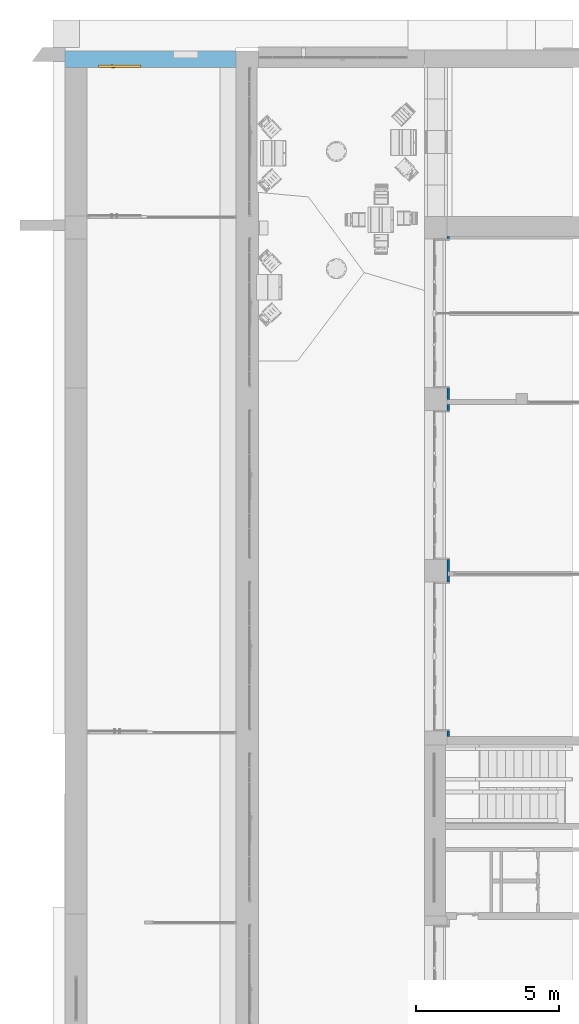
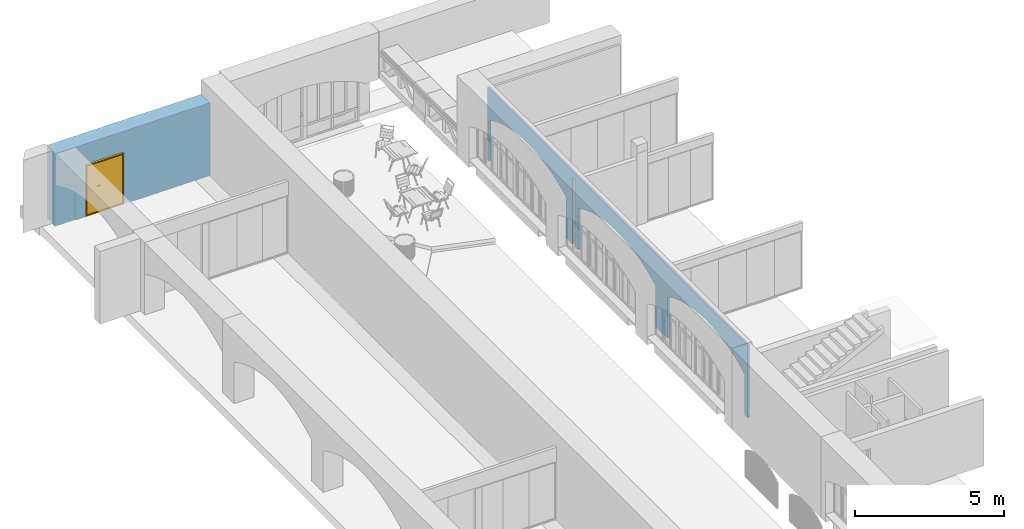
# One storey, part 80 of 88: 1 door, 1 wall, 5 openings, plus 1 element that does not belong to this part.
"""IFC2X3 building model written with IfcOpenShell, lengths in millimetres."""

from ifc_helpers import new_model, entity, si_unit, converted_unit, derived_unit, direction, frame, frame_2d, origin, place, context, subcontext, project, spatial, rectangle, extrude, faceted_brep, source, transform, mapped, material, layer, layer_set, layer_usage, type_object, type_shapes, element, fill, save


model = new_model("IFC2X3")

# Units and contexts
model_context = context("Model", 3, precision=0.01, world=origin(), true_north=direction((6.123031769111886e-17, 1.0)))
body_context = subcontext(model_context, "Body", "Model", "MODEL_VIEW")
ifc_project = project(units=[si_unit("LENGTHUNIT", "METRE", prefix="MILLI"), si_unit("AREAUNIT", "SQUARE_METRE"), si_unit("VOLUMEUNIT", "CUBIC_METRE"), converted_unit("PLANEANGLEUNIT", "DEGREE", entity("IfcPlaneAngleMeasure", 0.017453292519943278), si_unit("PLANEANGLEUNIT", "RADIAN"), dimensions=[0, 0, 0, 0, 0, 0, 0]), si_unit("MASSUNIT", "GRAM", prefix="KILO"), derived_unit("MASSDENSITYUNIT", [(si_unit("MASSUNIT", "GRAM", prefix="KILO"), 1), (si_unit("LENGTHUNIT", "METRE"), -3)]), derived_unit("IONCONCENTRATIONUNIT", [(si_unit("MASSUNIT", "GRAM", prefix="KILO"), 1), (si_unit("LENGTHUNIT", "METRE"), -3)]), derived_unit("MOMENTOFINERTIAUNIT", [(si_unit("LENGTHUNIT", "METRE"), 4)]), si_unit("TIMEUNIT", "SECOND"), si_unit("FREQUENCYUNIT", "HERTZ"), si_unit("THERMODYNAMICTEMPERATUREUNIT", "DEGREE_CELSIUS"), derived_unit("THERMALTRANSMITTANCEUNIT", [(si_unit("MASSUNIT", "GRAM", prefix="KILO"), 1), (si_unit("THERMODYNAMICTEMPERATUREUNIT", "KELVIN"), -1), (si_unit("TIMEUNIT", "SECOND"), -3)]), derived_unit("THERMALCONDUCTANCEUNIT", [(si_unit("MASSUNIT", "GRAM", prefix="KILO"), 1), (si_unit("THERMODYNAMICTEMPERATUREUNIT", "KELVIN"), -1), (si_unit("TIMEUNIT", "SECOND"), -3), (si_unit("LENGTHUNIT", "METRE"), 1)]), derived_unit("VOLUMETRICFLOWRATEUNIT", [(si_unit("LENGTHUNIT", "METRE", prefix="DECI"), 3), (si_unit("TIMEUNIT", "SECOND"), -1)]), derived_unit("MASSFLOWRATEUNIT", [(si_unit("MASSUNIT", "GRAM", prefix="KILO"), 1), (si_unit("TIMEUNIT", "SECOND"), -1)]), derived_unit("ROTATIONALFREQUENCYUNIT", [(si_unit("TIMEUNIT", "SECOND"), -1)]), si_unit("ELECTRICCURRENTUNIT", "AMPERE"), si_unit("ELECTRICVOLTAGEUNIT", "VOLT"), si_unit("POWERUNIT", "WATT"), si_unit("FORCEUNIT", "NEWTON", prefix="KILO"), si_unit("ILLUMINANCEUNIT", "LUX"), si_unit("LUMINOUSFLUXUNIT", "LUMEN"), si_unit("LUMINOUSINTENSITYUNIT", "CANDELA"), si_unit("ENERGYUNIT", "JOULE"), derived_unit("USERDEFINED", [(si_unit("MASSUNIT", "GRAM", prefix="KILO"), -1), (si_unit("LENGTHUNIT", "METRE"), -2), (si_unit("TIMEUNIT", "SECOND"), 3), (si_unit("LUMINOUSFLUXUNIT", "LUMEN"), 1)]), derived_unit("USERDEFINED", [(si_unit("MASSUNIT", "GRAM", prefix="KILO"), 1), (si_unit("TIMEUNIT", "SECOND"), -3), (si_unit("LENGTHUNIT", "METRE"), 3), (si_unit("ELECTRICCURRENTUNIT", "AMPERE"), -2)]), derived_unit("SOUNDPOWERUNIT", [(si_unit("MASSUNIT", "GRAM", prefix="KILO"), 1), (si_unit("TIMEUNIT", "SECOND"), -3), (si_unit("LENGTHUNIT", "METRE"), 2)]), derived_unit("SOUNDPRESSUREUNIT", [(si_unit("MASSUNIT", "GRAM", prefix="KILO"), 1), (si_unit("LENGTHUNIT", "METRE"), -1), (si_unit("TIMEUNIT", "SECOND"), -2)]), derived_unit("LINEARVELOCITYUNIT", [(si_unit("LENGTHUNIT", "METRE"), 1), (si_unit("TIMEUNIT", "SECOND"), -1)]), si_unit("PRESSUREUNIT", "PASCAL"), derived_unit("USERDEFINED", [(si_unit("MASSUNIT", "GRAM", prefix="KILO"), 1), (si_unit("LENGTHUNIT", "METRE"), -2), (si_unit("TIMEUNIT", "SECOND"), -2)]), derived_unit("LINEARFORCEUNIT", [(si_unit("MASSUNIT", "GRAM", prefix="KILO"), 1), (si_unit("TIMEUNIT", "SECOND"), -2)]), derived_unit("PLANARFORCEUNIT", [(si_unit("MASSUNIT", "GRAM", prefix="KILO"), 1), (si_unit("LENGTHUNIT", "METRE"), -1), (si_unit("TIMEUNIT", "SECOND"), -2)]), derived_unit("SPECIFICHEATCAPACITYUNIT", [(si_unit("THERMODYNAMICTEMPERATUREUNIT", "KELVIN"), -1), (si_unit("LENGTHUNIT", "METRE"), 2), (si_unit("TIMEUNIT", "SECOND"), -2)]), derived_unit("HEATFLUXDENSITYUNIT", [(si_unit("MASSUNIT", "GRAM", prefix="KILO"), 1), (si_unit("TIMEUNIT", "SECOND"), -3)]), derived_unit("HEATINGVALUEUNIT", [(si_unit("LENGTHUNIT", "METRE"), 2), (si_unit("TIMEUNIT", "SECOND"), -2)]), derived_unit("VAPORPERMEABILITYUNIT", [(si_unit("LENGTHUNIT", "METRE"), -1), (si_unit("TIMEUNIT", "SECOND"), 1)]), derived_unit("DYNAMICVISCOSITYUNIT", [(si_unit("MASSUNIT", "GRAM", prefix="KILO"), 1), (si_unit("TIMEUNIT", "SECOND"), -1), (si_unit("LENGTHUNIT", "METRE"), -1)]), derived_unit("THERMALEXPANSIONCOEFFICIENTUNIT", [(si_unit("THERMODYNAMICTEMPERATUREUNIT", "KELVIN"), -1)]), derived_unit("MODULUSOFELASTICITYUNIT", [(si_unit("MASSUNIT", "GRAM", prefix="KILO"), 1), (si_unit("LENGTHUNIT", "METRE"), -1), (si_unit("TIMEUNIT", "SECOND"), -2)]), derived_unit("ISOTHERMALMOISTURECAPACITYUNIT", [(si_unit("MASSUNIT", "GRAM", prefix="KILO"), -1), (si_unit("LENGTHUNIT", "METRE"), 3)]), derived_unit("MOISTUREDIFFUSIVITYUNIT", [(si_unit("TIMEUNIT", "SECOND"), -1), (si_unit("LENGTHUNIT", "METRE"), 2)]), derived_unit("MASSPERLENGTHUNIT", [(si_unit("MASSUNIT", "GRAM", prefix="KILO"), 1), (si_unit("LENGTHUNIT", "METRE"), -1)]), derived_unit("THERMALRESISTANCEUNIT", [(si_unit("MASSUNIT", "GRAM", prefix="KILO"), -1), (si_unit("TIMEUNIT", "SECOND"), 3), (si_unit("THERMODYNAMICTEMPERATUREUNIT", "KELVIN"), 1)]), derived_unit("ACCELERATIONUNIT", [(si_unit("LENGTHUNIT", "METRE"), 1), (si_unit("TIMEUNIT", "SECOND"), -2)]), derived_unit("ANGULARVELOCITYUNIT", [(si_unit("TIMEUNIT", "SECOND"), -1), (si_unit("PLANEANGLEUNIT", "RADIAN"), 1)]), derived_unit("LINEARSTIFFNESSUNIT", [(si_unit("MASSUNIT", "GRAM", prefix="KILO"), 1), (si_unit("TIMEUNIT", "SECOND"), -2)]), derived_unit("WARPINGCONSTANTUNIT", [(si_unit("LENGTHUNIT", "METRE"), 6)]), derived_unit("LINEARMOMENTUNIT", [(si_unit("MASSUNIT", "GRAM", prefix="KILO"), 1), (si_unit("LENGTHUNIT", "METRE"), 1), (si_unit("TIMEUNIT", "SECOND"), -2)]), derived_unit("TORQUEUNIT", [(si_unit("MASSUNIT", "GRAM", prefix="KILO"), 1), (si_unit("LENGTHUNIT", "METRE"), 2), (si_unit("TIMEUNIT", "SECOND"), -2)])], contexts=[model_context])

# Site, building, storey
site_placement = place(None, origin())
site = spatial("IfcSite", under=ifc_project, at=site_placement, Name="Default", CompositionType="ELEMENT")
building_placement = place(site_placement, origin())
building = spatial("IfcBuilding", under=site, at=building_placement, Name="Eesti Rahvusraamatukogu hoone renoveerimise projekteerimistööd", CompositionType="ELEMENT")
storey_placement = place(building_placement, origin())
storey = spatial("IfcBuildingStorey", under=building, at=storey_placement, Name="1. korrus", CompositionType="ELEMENT", Elevation=0.0)

# Wall, openings, door
ifc_material_1 = material(Name="ol. olev materjal")
ifc_layer_1 = layer(ifc_material_1, 580.0)
ifc_layer_set_1 = layer_set([ifc_layer_1], Name="Basic Wall:ol. olev - 580mm")
ifc_layer_usage = layer_usage(ifc_layer_set_1, "AXIS2", "POSITIVE", -290.0)
wall_type_1 = type_object("IfcWallType", Name="Basic Wall:ol. olev - 580mm", PredefinedType="STANDARD", material=ifc_layer_set_1)
wall_1_placement = place(storey_placement, frame((-49360.0, 54280.37627987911, 0.0)))
wall_1 = element("IfcWallStandardCase", 1, at=wall_1_placement, inside=storey, type_object=wall_type_1, material=ifc_layer_usage, Name="Basic Wall:ol. olev - 580mm", ObjectType="Basic Wall:ol. olev - 580mm", context=body_context, shape_type="SweptSolid", body=[
    extrude(rectangle(XDim=5989.999999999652, YDim=580.0000000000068, at=frame_2d((2994.999999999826, 1.3073986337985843e-12), x_axis=(-1.0, 0.0))), origin(), (0.0, 0.0, 1.0), 2980.0000000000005),
])
opening_1_placement = place(wall_1_placement, frame((49360.0, -54280.37627987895, 0.0)))
element("IfcOpeningElement", 2, at=opening_1_placement, cuts=wall_1, Name="Basic Wall:ol. olev - 580mm", ObjectType="Recess", context=body_context, shape_type="Brep", body=[
    faceted_brep([(-48580.0, 54019.93457046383, 0.0), (-48580.0, 54019.934570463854, 1660.0), (-48580.0, 53577.077702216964, 1885.1089561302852), (-48580.0, 53115.60305225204, 2069.0583929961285), (-48580.0, 52756.23368608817, 2166.8178757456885), (-48580.0, 52396.8643199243, 2264.577358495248), (-48580.0, 51905.79853510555, 2339.748116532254), (-48580.0, 51409.93457046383, 2370.0), (-48580.0, 50914.070605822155, 2339.748116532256), (-48580.0, 50423.0048210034, 2264.5773584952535), (-48580.0, 50063.63545483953, 2166.8178757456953), (-48580.0, 49704.266088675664, 2069.0583929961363), (-48580.0, 49242.79143871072, 1885.108956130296), (-48580.0, 48799.93457046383, 1660.0), (-48580.0, 48799.93457046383, 0.0), (-49360.0, 48799.93457046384, 0.0), (-49360.0, 48799.93457046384, 1660.0), (-49360.0, 49242.79143871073, 1885.108956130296), (-49360.0, 49704.26608867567, 2069.0583929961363), (-49360.0, 50063.63545483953, 2166.817875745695), (-49360.0, 50423.00482100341, 2264.5773584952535), (-49360.0, 50914.07060582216, 2339.748116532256), (-49360.0, 51409.93457046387, 2370.0), (-49360.0, 51905.798535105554, 2339.748116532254), (-49360.0, 52396.86431992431, 2264.577358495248), (-49360.0, 52756.23368608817, 2166.817875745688), (-49360.0, 53115.603052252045, 2069.0583929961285), (-49360.0, 53577.07770221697, 1885.1089561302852), (-49360.0, 54019.93457046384, 1660.0), (-49360.0, 54019.93457046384, 0.0)], [[[0, 1, 2, 3, 4, 5, 6, 7, 8, 9, 10, 11, 12, 13, 14]], [[15, 16, 17, 18, 19, 20, 21, 22, 23, 24, 25, 26, 27, 28, 29]], [[1, 0, 29, 28]], [[2, 1, 28, 27]], [[3, 2, 27, 26]], [[5, 4, 3, 26, 25, 24]], [[6, 5, 24, 23]], [[7, 6, 23, 22]], [[8, 7, 22, 21]], [[9, 8, 21, 20]], [[11, 10, 9, 20, 19, 18]], [[12, 11, 18, 17]], [[13, 12, 17, 16]], [[14, 13, 16, 15]], [[0, 14, 15, 29]]]),
])
opening_2_placement = place(wall_1_placement, frame((49360.0, -54280.37627987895, 45.0)))
element("IfcOpeningElement", 3, at=opening_2_placement, cuts=wall_1, Name="Basic Wall:ol. olev - 580mm", ObjectType="Opening", context=body_context, shape_type="SweptSolid", body=[
    extrude(rectangle(XDim=2100.0, YDim=1499.9999999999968, at=frame_2d((-4.320099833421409e-12, 0.0), x_axis=(0.0, 1.0))), frame((-47440.0, 52466.37627987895, 1050.0), z_axis=(0.0, 1.0, 0.0), x_axis=(1.0, 0.0, 0.0)), (0.0, 0.0, 1.0), 3048.0),
])
opening_3_placement = place(wall_1_placement, frame((49360.0, -54280.37627987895, 45.0)))
element("IfcOpeningElement", 4, at=opening_3_placement, cuts=wall_1, Name="Basic Wall:ol. olev - 580mm", ObjectType="Opening", context=body_context, shape_type="SweptSolid", body=[
    extrude(rectangle(XDim=2099.999999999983, YDim=119.99999999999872, at=frame_2d((4.330757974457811e-12, 0.0), x_axis=(0.0, 1.0))), frame((-48910.0, 54817.43079275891, 1050.0), z_axis=(0.0, 1.0, 0.0), x_axis=(-1.0, 0.0, 0.0)), (0.0, 0.0, 1.0), 900.0000000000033),
])
opening_4_placement = place(wall_1_placement, frame((49360.0, -54280.37627987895, 990.0)))
element("IfcOpeningElement", 5, at=opening_4_placement, cuts=wall_1, Name="Basic Wall:ol. olev - 580mm", ObjectType="Recess", context=body_context, shape_type="SweptSolid", body=[
    extrude(rectangle(XDim=979.9999999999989, YDim=859.9999999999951, at=frame_2d((0.0, -1.4210854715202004e-13), x_axis=(0.0, 1.0))), frame((-45140.0, 54320.376279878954, 510.0), z_axis=(0.0, 1.0, 0.0), x_axis=(-1.0, 0.0, 0.0)), (0.0, 0.0, 1.0), 250.0000000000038),
])
opening_5_placement = place(wall_1_placement, frame((1170.0, -290.0, 0.0)))
opening_5 = element("IfcOpeningElement", 6, at=opening_5_placement, cuts=wall_1, Name="SMA_D02, 2-poolne:SU-00 - 1500x2100:1", ObjectType="Opening", context=body_context, shape_type="SweptSolid", body=[
    extrude(rectangle(XDim=2099.999999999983, YDim=1500.0, at=frame_2d((1049.9999999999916, 750.0), x_axis=(1.0, 0.0))), frame((0.0, 0.0, 0.0), z_axis=(0.0, 1.0, 0.0), x_axis=(0.0, 0.0, 1.0)), (0.0, 0.0, 1.0), 580.0),
])
ifc_material_2 = material(Name="EST. Metall. Plekk. Värvitud. RAL7023 (Concrete grey)")
door_style = type_object("IfcDoorStyle", Name="SMA_D02, 2-poolne:SU-00 - 1500x2100", ConstructionType="NOTDEFINED", OperationType="DOUBLE_DOOR_SINGLE_SWING", ParameterTakesPrecedence=False, Sizeable=False, material=ifc_material_2)
shared_shape = source(origin(), body_context, "Body", "Brep", [
    faceted_brep([(487.49999999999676, -10.0, 1100.0), (487.49999999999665, 28.0, 1100.0), (462.4999999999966, 28.0, 1100.0), (462.49999999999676, -15.0, 1100.0), (582.4999999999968, -15.0, 1100.0), (582.4999999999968, -10.0, 1100.0), (487.49999999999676, -10.0, 1075.0), (582.4999999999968, -10.0, 1075.0), (582.4999999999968, -15.0, 1075.0), (462.49999999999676, -15.0, 1075.0), (462.4999999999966, 28.0, 1075.0), (487.49999999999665, 28.0, 1075.0)], [[[0, 1, 2, 3, 4, 5]], [[6, 7, 8, 9, 10, 11]], [[1, 0, 6, 11]], [[2, 1, 11, 10]], [[3, 2, 10, 9]], [[4, 3, 9, 8]], [[5, 4, 8, 7]], [[0, 5, 7, 6]]]),
    faceted_brep([(500.0, 28.0, 1125.0), (500.0, 30.0, 1125.0), (450.0, 30.0, 1125.0), (450.0, 28.0, 1125.0), (500.0, 28.0, 1005.0), (450.0, 28.0, 1005.0), (450.0, 30.0, 1005.0), (500.0, 30.0, 1005.0)], [[[0, 1, 2, 3]], [[4, 5, 6, 7]], [[1, 0, 4, 7]], [[2, 1, 7, 6]], [[3, 2, 6, 5]], [[0, 3, 5, 4]]]),
    faceted_brep([(487.49999999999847, 120.0, 1100.0), (582.4999999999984, 120.0, 1100.0), (582.4999999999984, 125.0, 1100.0), (462.4999999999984, 125.0, 1100.0), (462.49999999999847, 82.0, 1100.0), (487.4999999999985, 82.0, 1100.0), (487.49999999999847, 120.0, 1075.0), (487.4999999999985, 82.0, 1075.0), (462.49999999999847, 82.0, 1075.0), (462.4999999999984, 125.0, 1075.0), (582.4999999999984, 125.0, 1075.0), (582.4999999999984, 120.0, 1075.0)], [[[0, 1, 2, 3, 4, 5]], [[6, 7, 8, 9, 10, 11]], [[5, 7, 6, 0]], [[4, 8, 7, 5]], [[3, 9, 8, 4]], [[2, 10, 9, 3]], [[1, 11, 10, 2]], [[0, 6, 11, 1]]]),
    faceted_brep([(500.0, 82.0, 1125.0), (450.0, 82.0, 1125.0), (450.0, 80.0, 1125.0), (500.0, 80.0, 1125.0), (500.0, 82.0, 1005.0), (500.0, 80.0, 1005.0), (450.0, 80.0, 1005.0), (450.0, 82.0, 1005.0)], [[[0, 1, 2, 3]], [[4, 5, 6, 7]], [[3, 5, 4, 0]], [[2, 6, 5, 3]], [[1, 7, 6, 2]], [[0, 4, 7, 1]]]),
    faceted_brep([(1450.0, -10.0, 30.0), (1450.0, -10.0, 0.0), (1450.0, 30.00000000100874, 0.0), (1450.0, 30.0, 20.0), (1450.0, 30.0, 30.0), (50.0, -10.0, 30.0), (50.0, 30.0, 30.0), (50.0, 30.000000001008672, 20.0), (50.0, 30.0, 0.0), (50.0, -10.0, 0.0), (35.0, 30.000000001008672, 0.0), (35.0, 80.0, 0.0), (1465.0, 80.0, 0.0), (1465.0, 30.00000000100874, 0.0), (1465.0, 80.0, 20.0), (1465.0, 30.00000000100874, 20.0), (35.0, 80.0, 20.0), (35.0, 30.000000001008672, 20.0)], [[[0, 1, 2, 3, 4]], [[5, 6, 7, 8, 9]], [[1, 0, 5, 9]], [[2, 1, 9, 8, 10, 11, 12, 13]], [[6, 4, 3, 7]], [[0, 4, 6, 5]], [[14, 15, 13, 12]], [[16, 11, 10, 17]], [[15, 14, 16, 17, 7, 3]], [[13, 15, 3, 2]], [[14, 12, 11, 16]], [[17, 10, 8, 7]]]),
    faceted_brep([(1490.0, -10.0, 0.0), (1450.0, -10.0, 0.0), (1450.0, 30.0, 0.0), (1465.0, 30.0, 0.0), (1465.0, 80.0, 0.0), (1490.0, 80.0, 0.0), (1490.0, -10.0, 2090.0), (10.0, -10.0, 2090.0), (10.0, -10.0, 0.0), (50.0, -10.0, 0.0), (50.0, -10.0, 2050.0), (1450.0, -10.0, 2050.0), (1450.0, 30.0, 2050.0), (50.0, 30.0, 2050.0), (50.0, 30.0, 0.0), (35.0, 30.0, 0.0), (35.0, 30.0, 2065.0), (1465.0, 30.0, 2065.0), (1465.0, 80.0, 2065.0), (35.0, 80.0, 2065.0), (35.0, 80.0, 0.0), (10.0, 80.0, 0.0), (10.0, 80.0, 2090.0), (1490.0, 80.0, 2090.0)], [[[0, 1, 2, 3, 4, 5]], [[1, 0, 6, 7, 8, 9, 10, 11]], [[2, 1, 11, 12]], [[3, 2, 12, 13, 14, 15, 16, 17]], [[4, 3, 17, 18]], [[5, 4, 18, 19, 20, 21, 22, 23]], [[0, 5, 23, 6]], [[8, 7, 22, 21]], [[9, 8, 21, 20, 15, 14]], [[10, 9, 14, 13]], [[16, 15, 20, 19]], [[11, 10, 13, 12]], [[17, 16, 19, 18]], [[7, 6, 23, 22]]]),
    faceted_brep([(35.0, 30.0, 20.0), (400.0, 30.0, 20.0), (400.0, 30.0, 2065.0), (35.0, 30.0, 2065.0), (35.0, 80.0, 20.0), (35.0, 80.0, 2065.0), (400.0, 80.0, 2065.0), (400.0, 80.0, 20.0)], [[[0, 1, 2, 3]], [[4, 5, 6, 7]], [[1, 0, 4, 7]], [[2, 1, 7, 6]], [[3, 2, 6, 5]], [[0, 3, 5, 4]]]),
    faceted_brep([(1465.0, 30.0, 2075.0), (400.0, 30.0, 2075.0), (400.0, 30.0, 20.0), (1465.0, 30.0, 20.0), (1465.0, 80.0, 2075.0), (1465.0, 80.0, 20.0), (400.0, 80.0, 20.0), (400.0, 80.0, 2075.0)], [[[0, 1, 2, 3]], [[4, 5, 6, 7]], [[1, 0, 4, 7]], [[2, 1, 7, 6]], [[3, 2, 6, 5]], [[0, 3, 5, 4]]]),
])
type_shapes(door_style, [shared_shape])
door_placement = place(opening_5_placement, origin())
door = element("IfcDoor", 7, at=door_placement, inside=storey, type_object=door_style, material=ifc_material_2, Name="SMA_D02, 2-poolne:SU-00 - 1500x2100", ObjectType="SMA_D02, 2-poolne:SU-00 - 1500x2100", OverallHeight=2099.999999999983, OverallWidth=1499.9999999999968, context=body_context, shape_type="MappedRepresentation", body=[
    mapped(shared_shape, transform((0.0, 0.0, 0.0), scale=1.0)),
])
fill(opening_5, door)

# Wall
ifc_material_3 = material(Name="EST. Soojustus.PIR_Powerwall Pro")
ifc_layer_2 = layer(ifc_material_3, 30.0)
ifc_material_4 = material(Name="EST. Metall. Alumiinium. Mütsprofiil.")
ifc_layer_3 = layer(ifc_material_4, 42.0)
ifc_material_5 = material(Name="EST. Ehitusplaat. Kipsplaat")
ifc_layer_4 = layer(ifc_material_5, 12.5)
ifc_layer_set_2 = layer_set([ifc_layer_2, ifc_layer_3, ifc_layer_4], Name="Basic Wall:VS-03.1 - soojustus")
wall_type_2 = type_object("IfcWallType", Name="Basic Wall:VS-03.1 - soojustus", PredefinedType="STANDARD", material=ifc_layer_set_2)
wall_2_placement = place(storey_placement, frame((-35957.75000000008, 48080.0, 1650.0), z_axis=(0.0, 0.0, 1.0), x_axis=(0.0, -1.0, 0.0)))
element("IfcWall", 8, at=wall_2_placement, inside=storey, type_object=wall_type_2, Name="Basic Wall:VS-03.1 - soojustus", ObjectType="Basic Wall:VS-03.1 - soojustus", context=body_context, shape_type="Brep", body=[
    faceted_brep([(6090.0, -42.2499999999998, 0.0), (5875.0, -42.250000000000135, 0.0), (5875.0, 42.249999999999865, 0.0), (6090.0, 42.2500000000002, 0.0), (90.0, -42.25000000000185, 0.0), (0.0, -42.25000000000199, 0.0), (0.0, 42.24999999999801, 0.0), (84.5, 42.24999999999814, 0.0), (90.0, 42.24999999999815, 0.0), (5705.0, -42.2500000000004, 0.0), (5290.0, -42.250000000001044, 0.0), (5290.0, 42.249999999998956, 0.0), (5705.0, 42.2499999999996, 0.0), (12090.0, -42.24999999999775, 0.0), (11290.0, -42.24999999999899, 0.0), (11290.0, 42.24999999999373, 0.0), (12090.0, 42.24999999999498, 0.0), (17485.0, -42.25000000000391, 0.0), (17290.0, -42.25000000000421, 0.0), (17290.0, 42.24999999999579, 0.0), (17485.0, 42.24999999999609, 0.0), (90.0, -42.25000000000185, 1669.5651236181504), (320.54177588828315, -42.25000000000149, 1785.1282652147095), (556.245189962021, -42.25000000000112, 1889.762154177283), (796.5924691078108, -42.25000000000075, 1983.236939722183), (1041.0556389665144, -42.25000000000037, 2065.3472844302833), (1289.0976837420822, -42.249999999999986, 2135.9128153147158), (1540.1737258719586, -42.25000000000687, 2194.7785200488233), (1793.7322229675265, -42.25000000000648, 2241.8150874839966), (2049.2161793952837, -42.25000000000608, 2276.919191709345), (2306.064369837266, -42.25000000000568, 2300.01371902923), (2563.712572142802, -42.25000000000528, 2311.047937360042), (2821.594806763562, -42.25000000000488, 2309.997607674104), (3079.1445800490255, -42.250000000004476, 2296.8650372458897), (3335.796128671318, -42.25000000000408, 2271.6790745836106), (3590.9856624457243, -42.25000000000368, 2234.495046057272), (3844.1526028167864, -42.25000000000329, 2185.394634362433), (4094.7408142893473, -42.2500000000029, 2124.4856990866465), (4342.199826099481, -42.250000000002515, 2051.9020397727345), (4585.986041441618, -42.25000000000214, 1967.8031019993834), (4825.5639315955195, -42.25000000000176, 1872.3736271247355), (5060.407212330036, -42.2500000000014, 1765.8232464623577), (5290.0, -42.250000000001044, 1648.3860207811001), (5705.0, -42.2500000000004, 2730.000000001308), (5875.0, -42.250000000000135, 2730.000000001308), (6090.0, -42.2499999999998, 1690.492487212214), (6320.668195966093, -42.24999999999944, 1805.6310101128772), (6556.460176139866, -42.24999999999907, 1909.8751378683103), (6796.861743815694, -42.2499999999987, 2002.9975430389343), (7041.348650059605, -42.25000000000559, 2084.795151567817), (7289.3877369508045, -42.25000000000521, 2155.089585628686), (7540.438100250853, -42.25000000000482, 2213.7275526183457), (7793.952268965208, -42.25000000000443, 2260.5811794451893), (8049.377399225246, -42.25000000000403, 2295.548291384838), (8306.156479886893, -42.25000000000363, 2318.5526348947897), (8563.729547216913, -42.250000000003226, 2329.5440439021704), (8821.534906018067, -42.25000000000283, 2328.4985492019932), (9079.010354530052, -42.25000000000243, 2315.41843072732), (9335.594410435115, -42.250000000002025, 2290.3322125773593), (9590.727535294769, -42.250000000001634, 2253.294600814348), (9843.853354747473, -42.250000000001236, 2204.3863641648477), (10094.419871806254, -42.250000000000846, 2143.71415788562), (10341.880670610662, -42.25000000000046, 2071.410291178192), (10585.69610800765, -42.250000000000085, 1987.6324386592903), (10825.334490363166, -42.24999999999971, 1892.563296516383), (11060.273233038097, -42.249999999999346, 1786.4101840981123), (11290.0, -42.24999999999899, 1669.4045918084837), (12090.0, -42.24999999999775, 1690.4924872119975), (12320.668195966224, -42.249999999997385, 1805.6310101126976), (12556.46017613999, -42.2500000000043, 1909.8751378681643), (12796.861743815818, -42.25000000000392, 2002.9975430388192), (13041.348650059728, -42.250000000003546, 2084.7951515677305), (13289.387736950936, -42.250000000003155, 2155.0895856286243), (13540.438100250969, -42.250000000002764, 2213.727552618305), (13793.952268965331, -42.25000000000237, 2260.5811794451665), (14049.377399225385, -42.250000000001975, 2295.548291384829), (14306.156479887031, -42.25000000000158, 2318.5526348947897), (14563.729547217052, -42.25000000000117, 2329.544043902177), (14821.53490601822, -42.250000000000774, 2328.4985492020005), (15079.010354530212, -42.25000000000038, 2315.4184307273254), (15335.594410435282, -42.250000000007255, 2290.3322125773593), (15590.727535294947, -42.25000000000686, 2253.294600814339), (15843.853354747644, -42.25000000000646, 2204.386364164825), (16094.419871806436, -42.250000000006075, 2143.714157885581), (16341.88067061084, -42.250000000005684, 2071.410291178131), (16585.696108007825, -42.25000000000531, 1987.6324386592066), (16825.334490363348, -42.25000000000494, 1892.5632965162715), (17060.273233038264, -42.25000000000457, 1786.4101840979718), (17290.0, -42.25000000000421, 1669.404591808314), (17485.0, -42.25000000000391, 2980.000000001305), (0.0, -42.25000000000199, 2980.000000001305), (17290.0, 42.24999999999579, 1669.4045918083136), (17060.27323303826, 42.24999999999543, 1786.410184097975), (16825.334490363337, 42.24999999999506, 1892.5632965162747), (16585.696108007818, 42.24999999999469, 1987.6324386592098), (16341.880670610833, 42.249999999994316, 2071.410291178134), (16094.419871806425, 42.249999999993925, 2143.7141578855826), (15843.853354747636, 42.24999999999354, 2204.386364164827), (15590.727535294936, 42.24999999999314, 2253.2946008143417), (15335.594410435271, 42.249999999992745, 2290.33221257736), (15079.010354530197, 42.24999999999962, 2315.4184307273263), (14821.534906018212, 42.249999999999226, 2328.4985492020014), (14563.729547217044, 42.24999999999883, 2329.544043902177), (14306.156479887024, 42.24999999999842, 2318.552634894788), (14049.377399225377, 42.249999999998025, 2295.5482913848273), (13793.952268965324, 42.24999999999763, 2260.581179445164), (13540.438100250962, 42.249999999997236, 2213.727552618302), (13289.387736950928, 42.249999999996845, 2155.0895856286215), (13041.348650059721, 42.249999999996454, 2084.7951515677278), (12796.86174381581, 42.24999999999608, 2002.9975430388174), (12556.460176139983, 42.2499999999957, 1909.8751378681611), (12320.668195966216, 42.24999999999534, 1805.631010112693), (12090.0, 42.24999999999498, 1690.4924872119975), (12090.0, 42.24999999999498, 1670.0), (11290.0, 42.24999999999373, 1669.4045918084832), (11060.273233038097, 42.24999999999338, 1786.4101840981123), (10825.334490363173, 42.249999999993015, 1892.563296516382), (10585.69610800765, 42.24999999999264, 1987.6324386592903), (10341.880670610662, 42.24999999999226, 2071.410291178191), (10094.419871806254, 42.24999999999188, 2143.71415788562), (9843.853354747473, 42.24999999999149, 2204.3863641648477), (9590.727535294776, 42.249999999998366, 2253.294600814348), (9335.594410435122, 42.249999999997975, 2290.3322125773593), (9079.010354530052, 42.24999999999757, 2315.418430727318), (8821.534906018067, 42.24999999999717, 2328.4985492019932), (8563.729547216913, 42.249999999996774, 2329.5440439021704), (8306.156479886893, 42.24999999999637, 2318.5526348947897), (8049.377399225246, 42.24999999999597, 2295.548291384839), (7793.952268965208, 42.24999999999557, 2260.5811794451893), (7540.438100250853, 42.24999999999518, 2213.7275526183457), (7289.3877369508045, 42.24999999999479, 2155.089585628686), (7041.348650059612, 42.24999999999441, 2084.795151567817), (6796.861743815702, 42.2500000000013, 2002.9975430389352), (6556.460176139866, 42.25000000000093, 1909.8751378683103), (6320.668195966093, 42.25000000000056, 1805.6310101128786), (6090.0, 42.2500000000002, 1690.492487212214), (6090.0, 42.2500000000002, 1670.0), (5875.0, 42.249999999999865, 2730.000000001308), (5705.0, 42.2499999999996, 2730.000000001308), (5290.0, 42.249999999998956, 1648.3860207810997), (5060.407212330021, 42.2499999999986, 1765.8232464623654), (4825.563931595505, 42.24999999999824, 1872.373627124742), (4585.986041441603, 42.24999999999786, 1967.803101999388), (4342.199826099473, 42.249999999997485, 2051.902039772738), (4094.74081428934, 42.2499999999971, 2124.48569908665), (3844.152602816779, 42.24999999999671, 2185.3946343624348), (3590.985662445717, 42.24999999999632, 2234.4950460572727), (3335.7961286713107, 42.24999999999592, 2271.6790745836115), (3079.1445800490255, 42.249999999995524, 2296.8650372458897), (2821.5948067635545, 42.24999999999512, 2309.997607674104), (2563.7125721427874, 42.24999999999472, 2311.047937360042), (2306.0643698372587, 42.24999999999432, 2300.01371902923), (2049.2161793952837, 42.24999999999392, 2276.919191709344), (1793.7322229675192, 42.24999999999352, 2241.8150874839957), (1540.1737258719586, 42.24999999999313, 2194.7785200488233), (1289.0976837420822, 42.250000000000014, 2135.9128153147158), (1041.0556389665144, 42.24999999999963, 2065.3472844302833), (796.5924691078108, 42.24999999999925, 1983.236939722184), (556.245189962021, 42.24999999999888, 1889.7621541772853), (320.54177588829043, 42.24999999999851, 1785.1282652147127), (90.0, 42.24999999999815, 1669.5651236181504), (0.0, 42.24999999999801, 2980.000000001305), (84.5, 42.24999999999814, 2980.000000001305), (2617.499999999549, 42.249999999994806, 2980.000000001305), (2762.499999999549, 42.249999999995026, 2980.000000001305), (17485.0, 42.24999999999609, 2980.000000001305)], [[[0, 1, 2, 3]], [[4, 5, 6, 7, 8]], [[9, 10, 11, 12]], [[13, 14, 15, 16]], [[17, 18, 19, 20]], [[5, 4, 21, 22, 23, 24, 25, 26, 27, 28, 29, 30, 31, 32, 33, 34, 35, 36, 37, 38, 39, 40, 41, 42, 10, 9, 43, 44, 1, 0, 45, 46, 47, 48, 49, 50, 51, 52, 53, 54, 55, 56, 57, 58, 59, 60, 61, 62, 63, 64, 65, 66, 14, 13, 67, 68, 69, 70, 71, 72, 73, 74, 75, 76, 77, 78, 79, 80, 81, 82, 83, 84, 85, 86, 87, 88, 18, 17, 89, 90]], [[20, 19, 91, 92, 93, 94, 95, 96, 97, 98, 99, 100, 101, 102, 103, 104, 105, 106, 107, 108, 109, 110, 111, 112, 113, 16, 15, 114, 115, 116, 117, 118, 119, 120, 121, 122, 123, 124, 125, 126, 127, 128, 129, 130, 131, 132, 133, 134, 135, 136, 3, 2, 137, 138, 12, 11, 139, 140, 141, 142, 143, 144, 145, 146, 147, 148, 149, 150, 151, 152, 153, 154, 155, 156, 157, 158, 159, 160, 8, 7, 6, 161, 162, 163, 164, 165]], [[9, 12, 138, 43]], [[2, 1, 44, 137]], [[44, 43, 138, 137]], [[89, 17, 20, 165]], [[90, 89, 165, 164, 163, 162, 161]], [[5, 90, 161, 6]], [[70, 69, 110, 109]], [[68, 67, 112, 111]], [[68, 111, 110, 69]], [[71, 70, 109, 108]], [[75, 74, 105, 104]], [[76, 75, 104, 103]], [[73, 72, 107, 106]], [[74, 73, 106, 105]], [[71, 108, 107, 72]], [[77, 76, 103, 102]], [[102, 101, 78, 77]], [[81, 80, 99, 98]], [[79, 78, 101, 100]], [[79, 100, 99, 80]], [[82, 81, 98, 97]], [[86, 85, 94, 93]], [[87, 86, 93, 92]], [[84, 83, 96, 95]], [[85, 84, 95, 94]], [[82, 97, 96, 83]], [[88, 87, 92, 91]], [[48, 47, 133, 132]], [[46, 45, 135, 134]], [[46, 134, 133, 47]], [[49, 48, 132, 131]], [[53, 52, 128, 127]], [[54, 53, 127, 126]], [[51, 50, 130, 129]], [[52, 51, 129, 128]], [[49, 131, 130, 50]], [[55, 54, 126, 125]], [[125, 124, 56, 55]], [[59, 58, 122, 121]], [[57, 56, 124, 123]], [[57, 123, 122, 58]], [[60, 59, 121, 120]], [[64, 63, 117, 116]], [[65, 64, 116, 115]], [[62, 61, 119, 118]], [[63, 62, 118, 117]], [[60, 120, 119, 61]], [[66, 65, 115, 114]], [[24, 23, 158, 157]], [[22, 21, 160, 159]], [[22, 159, 158, 23]], [[25, 24, 157, 156]], [[29, 28, 153, 152]], [[30, 29, 152, 151]], [[27, 26, 155, 154]], [[28, 27, 154, 153]], [[25, 156, 155, 26]], [[31, 30, 151, 150]], [[150, 149, 32, 31]], [[35, 34, 147, 146]], [[33, 32, 149, 148]], [[33, 148, 147, 34]], [[36, 35, 146, 145]], [[40, 39, 142, 141]], [[41, 40, 141, 140]], [[38, 37, 144, 143]], [[39, 38, 143, 142]], [[36, 145, 144, 37]], [[42, 41, 140, 139]], [[19, 18, 88, 91]], [[67, 13, 16, 113, 112]], [[114, 15, 14, 66]], [[45, 0, 3, 136, 135]], [[139, 11, 10, 42]], [[21, 4, 8, 160]]]),
])

save(model, "model.ifc")
